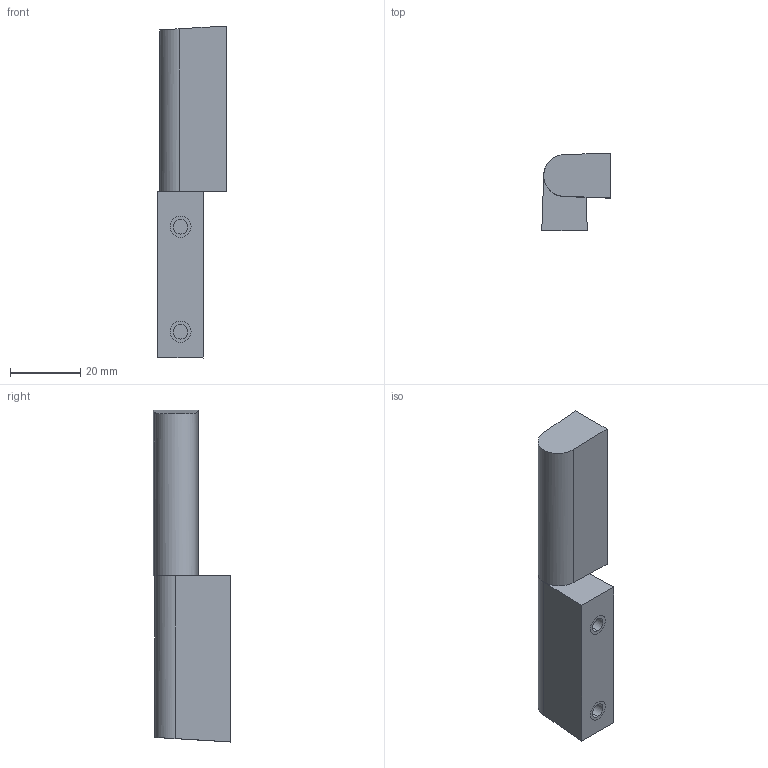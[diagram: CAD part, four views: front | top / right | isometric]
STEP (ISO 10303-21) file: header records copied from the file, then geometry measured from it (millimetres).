
FILE_DESCRIPTION (( 'STEP AP214' ), '1' );
FILE_NAME ('3.ZN152.001.STEP', '2010-02-11T14:55:32', ( 'Rak' ), ( 'ROZTOCZE' ), 'SwSTEP 2.0', 'SolidWorks 2004231', '' );
FILE_SCHEMA (( 'AUTOMOTIVE_DESIGN' ));
Length unit declared in the file: millimetre
Products named in the file (7): 3.ZN152.001.01_Domyœlna; 3.ZN152.001.04_Domyœlna; 3.ZN152.001.04-bryla; 3.ZN151.001.03; 3.ZN152.001.01-bryla; 3.ZN151.001.02; 3.ZN152.001
Assembly tree (7 placements, depth 3):
  3.ZN152.001
    3.ZN152.001.01_Domyœlna
      3.ZN151.001.03
      3.ZN152.001.01-bryla
      3.ZN151.001.02
    3.ZN152.001.04_Domyœlna
      3.ZN152.001.04-bryla
      3.ZN151.001.02
Bounding box: 19.55 x 22.1 x 94.84 mm (x, y, z)
Volume: 21372.9 mm3; surface area: 13566.5 mm2
Topology: 5 solids, 5 shells, 122 faces, 270 edges, 174 vertices
Faces by surface type: cylinder 56, plane 48, torus 16, cone 2
Entity records: 3008 total; most frequent: DIRECTION 544, CARTESIAN_POINT 468, ORIENTED_EDGE 428, AXIS2_PLACEMENT_3D 222, EDGE_CURVE 214, VERTEX_POINT 138, EDGE_LOOP 128, CIRCLE 112
